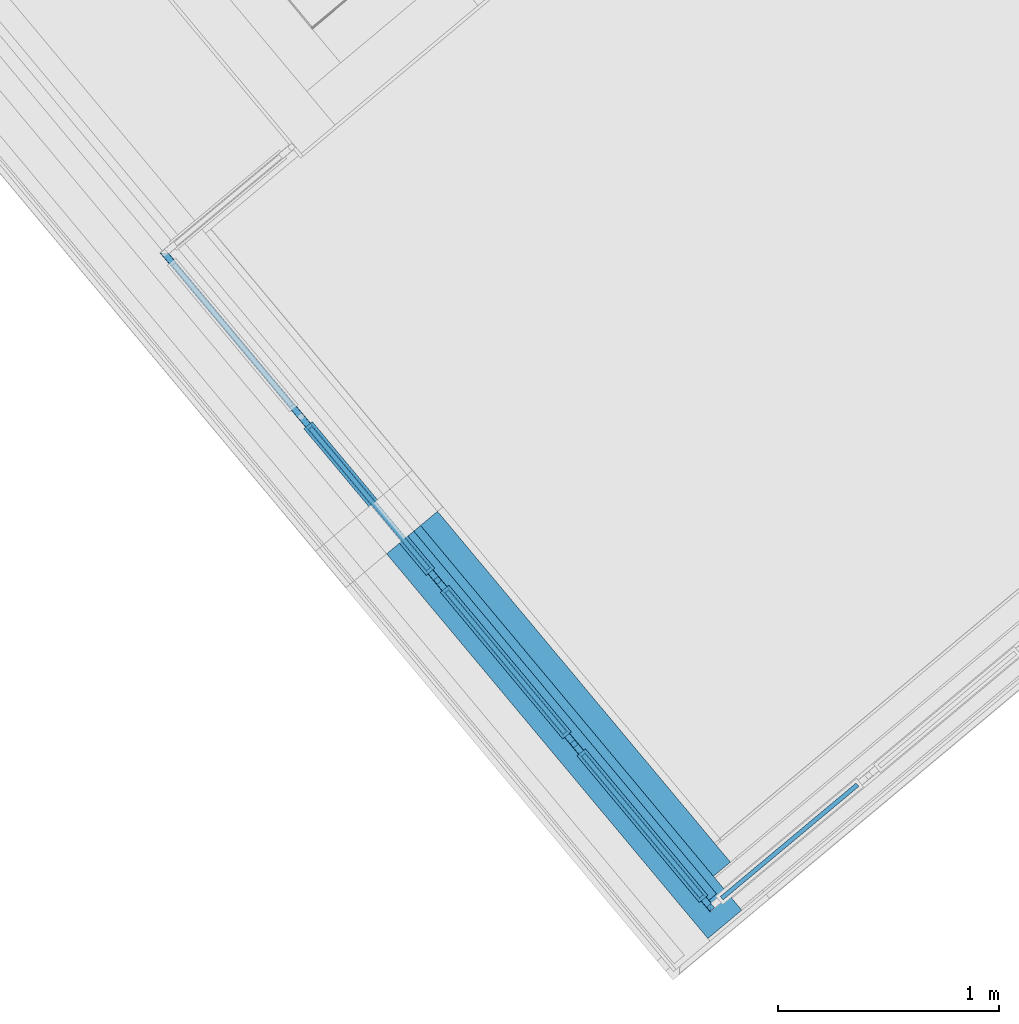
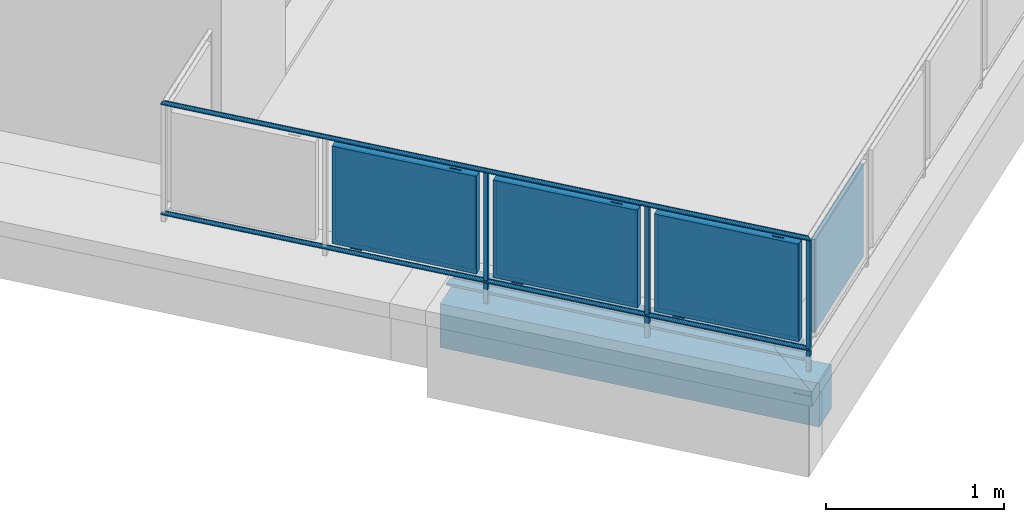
# One storey, part 15 of 58: 15 building element parts, 2 elements without a shape of their own.
"""IFC4 building model written with IfcOpenShell, lengths in metres."""

from ifc_helpers import new_model, entity, si_unit, converted_unit, derived_unit, direction, frame, origin_with_axes, place, context, subcontext, project, spatial, polygons, material, type_object, element, aggregate, save


model = new_model("IFC4")

# Units and contexts
model_context = context("Model", 3, precision=1e-05, world=origin_with_axes(), true_north=direction((0.0, 1.0)))
body_context = subcontext(model_context, "Body", "Model", "MODEL_VIEW")
ifc_project = project(units=[si_unit("LENGTHUNIT", "METRE"), si_unit("AREAUNIT", "SQUARE_METRE"), si_unit("VOLUMEUNIT", "CUBIC_METRE"), converted_unit("PLANEANGLEUNIT", "DEGREE", entity("IfcPlaneAngleMeasure", 0.0174532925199), si_unit("PLANEANGLEUNIT", "RADIAN"), dimensions=[0, 0, 0, 0, 0, 0, 0]), converted_unit("TIMEUNIT", "Year", entity("IfcTimeMeasure", 31556926.0), si_unit("TIMEUNIT", "SECOND"), dimensions=[0, 0, 1, 0, 0, 0, 0]), si_unit("MASSUNIT", "GRAM", prefix="KILO"), si_unit("THERMODYNAMICTEMPERATUREUNIT", "DEGREE_CELSIUS"), si_unit("LUMINOUSINTENSITYUNIT", "LUMEN"), si_unit("ENERGYUNIT", "JOULE", prefix="MEGA"), derived_unit("THERMALCONDUCTANCEUNIT", [(si_unit("POWERUNIT", "WATT"), 1), (si_unit("LENGTHUNIT", "METRE"), -1), (si_unit("THERMODYNAMICTEMPERATUREUNIT", "KELVIN"), -1)]), derived_unit("SPECIFICHEATCAPACITYUNIT", [(si_unit("ENERGYUNIT", "JOULE"), 1), (si_unit("MASSUNIT", "GRAM", prefix="KILO"), -1), (si_unit("THERMODYNAMICTEMPERATUREUNIT", "KELVIN"), -1)]), derived_unit("MASSDENSITYUNIT", [(si_unit("MASSUNIT", "GRAM", prefix="KILO"), 1), (si_unit("VOLUMEUNIT", "CUBIC_METRE"), -1)])], contexts=[model_context])

# Site, building, storey
site_placement = place(None, frame((-0.00153261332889, -0.00661245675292, 0.0), z_axis=(0.0, 0.0, 1.0), x_axis=(1.0, 0.0, 0.0)))
site = spatial("IfcSite", under=ifc_project, at=site_placement, Name="Site", CompositionType="ELEMENT")
building_placement = place(site_placement, origin_with_axes())
building = spatial("IfcBuilding", under=site, at=building_placement, Name="Building", CompositionType="ELEMENT")
storey_placement = place(building_placement, frame((0.0, 0.0, 5.7), z_axis=(0.0, 0.0, 1.0), x_axis=(1.0, 0.0, 0.0)))
storey = spatial("IfcBuildingStorey", under=building, at=storey_placement, Name="DG1", CompositionType="ELEMENT", Elevation=5.7)

# Wall, building element parts
wall_type = type_object("IfcWallType", Name="Balkon Dämmung runter 574 x 610", PredefinedType="NOTDEFINED")
wall_placement = place(storey_placement, frame((-0.869246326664, 8.34153645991, -0.2), z_axis=(0.0, 0.0, 1.0), x_axis=(0.640952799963, -0.767580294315, 0.0)))
wall = element("IfcWall", 1, at=wall_placement, inside=storey, type_object=wall_type, Name="Wand-004", PredefinedType="NOTDEFINED")
ifc_material_1 = material(Name="EPS 1")
building_element_part_1_placement = place(wall_placement, origin_with_axes())
building_element_part_1 = element("IfcBuildingElementPart", 2, at=building_element_part_1_placement, material=ifc_material_1, Name="EPS 1", PredefinedType="NOTDEFINED", context=body_context, shape_type="Tessellation", body=[
    polygons([(2.06886445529, 0.199999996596, 0.33500000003), (6.64236852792e-05, 0.199999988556, 0.335000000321), (9.9635535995e-05, 0.300000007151, 0.335000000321), (2.06881889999, 0.300000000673, 0.33500000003), (2.06886445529, 0.199999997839, 0.488695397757), (2.06886445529, 0.199999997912, 0.491006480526), (2.06886445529, 0.199999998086, 0.496604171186), (2.06886445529, 0.199999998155, 0.498822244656), (2.06886445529, 0.199999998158, 0.498915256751), (2.06886445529, 0.199999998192, 0.500000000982), (2.06886445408, 0.199999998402, 0.506731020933), (2.0688644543, 0.199999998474, 0.509050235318), (2.0688644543, 0.199999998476, 0.509099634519), (2.0688644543, 0.199999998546, 0.51136132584), (2.0688644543, 0.199999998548, 0.511410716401), (2.0688644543, 0.199999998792, 0.519224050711), (2.0688644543, 0.199999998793, 0.519273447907), (2.0688644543, 0.200000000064, 0.560000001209), (6.64236890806e-05, 0.2, 0.560000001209), (9.963553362e-05, 0.3, 0.560000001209), (9.9635535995e-05, 0.300000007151, 0.488695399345), (2.068818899, 0.299999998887, 0.560000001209), (2.068818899, 0.299999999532, 0.519273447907), (2.068818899, 0.299999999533, 0.519224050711), (2.068818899, 0.299999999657, 0.511410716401), (2.068818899, 0.299999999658, 0.51136132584), (2.068818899, 0.299999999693, 0.509099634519), (2.068818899, 0.299999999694, 0.509050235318), (2.06881889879, 0.299999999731, 0.506731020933), (2.06881889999, 0.299999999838, 0.500000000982), (2.06881889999, 0.299999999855, 0.498915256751), (2.06881889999, 0.299999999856, 0.498822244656), (2.06881889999, 0.299999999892, 0.496604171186), (2.06881889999, 0.29999999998, 0.491006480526), (2.06881889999, 0.300000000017, 0.488695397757)], [[[1, 2, 3, 4]], [[1, 5, 6, 7, 8, 9, 10, 11, 12, 13, 14, 15, 16, 17, 18, 19, 2]], [[2, 19, 20, 21, 3]], [[3, 21, 20, 22, 23, 24, 25, 26, 27, 28, 29, 30, 31, 32, 33, 34, 35, 4]], [[5, 1, 4, 35]], [[6, 5, 35, 34]], [[7, 6, 34, 33]], [[8, 7, 33, 32]], [[9, 8, 32, 31]], [[10, 9, 31, 30]], [[11, 10, 30, 29]], [[12, 11, 29, 28]], [[13, 12, 28, 27]], [[14, 13, 27, 26]], [[15, 14, 26, 25]], [[16, 15, 25, 24]], [[17, 16, 24, 23]], [[18, 17, 23, 22]], [[19, 18, 22, 20]]], closed=True),
])
ifc_material_2 = material(Name="Vollholz")
building_element_part_2_placement = place(wall_placement, origin_with_axes())
building_element_part_2 = element("IfcBuildingElementPart", 3, at=building_element_part_2_placement, material=ifc_material_2, Name="Vollholz", PredefinedType="NOTDEFINED", context=body_context, shape_type="Tessellation", body=[
    polygons([(3.32118445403e-05, 0.1, 0.560000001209), (2.13905292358, 0.1, 0.560000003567), (2.13905292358, 0.1, 0.567947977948), (2.13905292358, 0.1, 0.573880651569), (2.13905292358, 0.1, 0.575576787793), (2.13905292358, 0.1, 0.575979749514), (3.32118445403e-05, 0.1, 0.575979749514), (5.3138951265e-05, 0.16, 0.560000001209), (2.1390255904, 0.160000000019, 0.560000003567), (2.13902556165, 0.160063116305, 0.567947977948), (2.13902554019, 0.160110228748, 0.573880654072), (2.13904766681, 0.11153931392, 0.575576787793), (5.31755602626e-05, 0.160110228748, 0.573880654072)], [[[1, 2, 3, 4, 5, 6, 7]], [[2, 1, 8, 9]], [[3, 2, 9, 10]], [[4, 3, 10, 11]], [[5, 4, 11, 12]], [[12, 6, 5]], [[7, 6, 12, 11, 13]], [[8, 1, 7, 13]], [[8, 13, 11, 10, 9]]], closed=True),
])
ifc_material_3 = material(Name="Stahlbeton")
building_element_part_3_placement = place(wall_placement, origin_with_axes())
building_element_part_3 = element("IfcBuildingElementPart", 4, at=building_element_part_3_placement, material=ifc_material_3, Name="Stahlbeton", PredefinedType="NOTDEFINED", context=body_context, shape_type="Tessellation", body=[
    polygons([(2.26895554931, -2.73519074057e-09, 0.500000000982), (2.26886443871, 0.199999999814, 0.500000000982), (6.64236890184e-05, 0.199999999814, 0.500000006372), (0.0, -2.73519074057e-09, 0.499999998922), (2.26886443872, 0.199999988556, 0.498915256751), (2.26895554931, -2.73519074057e-09, 0.498915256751), (2.26886443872, 0.199999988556, 0.498822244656), (2.26886443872, 0.199999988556, 0.496604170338), (2.26886443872, 0.199999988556, 0.491006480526), (2.26886443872, 0.199999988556, 0.488695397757), (2.26886443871, 0.19999999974, 0.334999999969), (6.64236852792e-05, 0.199999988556, 0.335000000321), (0.0, -2.73518985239e-09, 0.2), (6.64236891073e-05, 0.200000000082, 0.2), (2.26895554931, -2.73519074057e-09, 0.2), (2.26895554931, -2.73519074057e-09, 0.334999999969), (2.26895554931, -2.73519074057e-09, 0.488695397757), (2.26895554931, -2.73519074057e-09, 0.491006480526), (2.26895554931, -2.73519074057e-09, 0.496604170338), (2.26895554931, -2.73519074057e-09, 0.498822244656), (2.26886443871, 0.199999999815, 0.2)], [[[1, 2, 3, 4]], [[5, 2, 1, 6]], [[2, 5, 7, 8, 9, 10, 11, 12, 3]], [[13, 4, 3, 12, 14]], [[6, 1, 4, 13, 15, 16, 17, 18, 19, 20]], [[5, 6, 20, 7]], [[7, 20, 19, 8]], [[8, 19, 18, 9]], [[9, 18, 17, 10]], [[10, 17, 16, 11]], [[11, 21, 14, 12]], [[21, 15, 13, 14]], [[11, 16, 15, 21]]], closed=True),
])
aggregate(wall, [building_element_part_1, building_element_part_2, building_element_part_3])

# Railing, building element parts
railing_type = type_object("IfcRailingType", Name="Geländerart", PredefinedType="NOTDEFINED")
railing_placement = place(storey_placement, frame((-1.26757951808, 10.1438545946, 0.38), z_axis=(0.0, 0.0, 1.0), x_axis=(1.0, 0.0, 0.0)))
railing = element("IfcRailing", 5, at=railing_placement, inside=storey, type_object=railing_type, Name="Geländer - 001", PredefinedType="NOTDEFINED")
ifc_material_4 = material(Name="Aluminium")
building_element_part_4_placement = place(railing_placement, origin_with_axes())
building_element_part_4 = element("IfcBuildingElementPart", 6, at=building_element_part_4_placement, material=ifc_material_4, Name="Aluminium", PredefinedType="NOTDEFINED", context=body_context, shape_type="Tessellation", body=[
    polygons([(1.8636712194, -3.42062701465, -0.3), (1.88286164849, -3.40460429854, -0.3), (1.88286164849, -3.40460429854, 0.82), (1.8636712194, -3.42062701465, 0.82), (1.84764850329, -3.40143658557, -0.3), (1.86683893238, -3.38541386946, -0.3), (1.86683893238, -3.38541386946, 0.82), (1.84764850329, -3.40143658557, 0.82)], [[[1, 2, 3, 4]], [[1, 5, 6, 2]], [[2, 6, 7, 3]], [[4, 3, 7, 8]], [[5, 1, 4, 8]], [[6, 5, 8, 7]]], closed=True),
])
building_element_part_5_placement = place(railing_placement, origin_with_axes())
building_element_part_5 = element("IfcBuildingElementPart", 7, at=building_element_part_5_placement, material=ifc_material_4, Name="Aluminium", PredefinedType="NOTDEFINED", context=body_context, shape_type="Tessellation", body=[
    polygons([(-0.586034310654, -0.443703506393, 0.825), (-0.586355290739, -0.443674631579, 0.827604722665), (1.86712331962, -3.38220933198, 0.827604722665), (1.86715214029, -3.38188828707, 0.825), (-0.586355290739, -0.443674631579, 0.822395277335), (-0.587308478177, -0.443588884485, 0.81986969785), (-0.588864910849, -0.443448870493, 0.8175), (-0.590977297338, -0.443258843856, 0.815358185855), (-0.593581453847, -0.443024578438, 0.813509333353), (-0.5965982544, -0.442753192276, 0.812009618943), (-0.599936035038, -0.4424529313, 0.810904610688), (-0.603493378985, -0.442132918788, 0.810227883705), (-0.607162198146, -0.441802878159, 0.81), (-0.610831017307, -0.441472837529, 0.810227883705), (-0.614388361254, -0.441152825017, 0.810904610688), (-0.617726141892, -0.440852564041, 0.812009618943), (-0.620742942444, -0.440581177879, 0.813509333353), (-0.623347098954, -0.440346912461, 0.815358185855), (-0.625459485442, -0.440156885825, 0.8175), (-0.627015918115, -0.440016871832, 0.81986969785), (-0.627969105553, -0.439931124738, 0.822395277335), (-0.628290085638, -0.439902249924, 0.825), (-0.627969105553, -0.439931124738, 0.827604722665), (-0.627015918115, -0.440016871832, 0.83013030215), (-0.625459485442, -0.440156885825, 0.8325), (-0.623347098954, -0.440346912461, 0.834641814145), (-0.620742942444, -0.440581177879, 0.836490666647), (-0.617726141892, -0.440852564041, 0.837990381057), (-0.614388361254, -0.441152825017, 0.839095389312), (-0.610831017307, -0.441472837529, 0.839772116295), (-0.607162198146, -0.441802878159, 0.84), (-0.603493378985, -0.442132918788, 0.839772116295), (-0.599936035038, -0.4424529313, 0.839095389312), (-0.5965982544, -0.442753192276, 0.837990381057), (-0.593581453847, -0.443024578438, 0.836490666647), (-0.590977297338, -0.443258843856, 0.834641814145), (-0.588864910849, -0.443448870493, 0.8325), (-0.587308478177, -0.443588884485, 0.83013030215), (1.86703773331, -3.38316271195, 0.83013030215), (1.86689798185, -3.384719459, 0.8325), (1.86670831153, -3.38683227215, 0.834641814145), (1.86647448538, -3.38943695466, 0.836490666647), (1.86620360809, -3.39245436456, 0.837990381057), (1.86590391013, -3.39579281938, 0.839095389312), (1.86558449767, -3.39935088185, 0.839772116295), (1.86525507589, -3.40302044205, 0.84), (1.86492565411, -3.40669000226, 0.839772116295), (1.86460624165, -3.41024806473, 0.839095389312), (1.86430654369, -3.41358651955, 0.837990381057), (1.8640356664, -3.41660392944, 0.836490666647), (1.86380184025, -3.41920861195, 0.834641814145), (1.86361216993, -3.42132142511, 0.8325), (1.86347241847, -3.42287817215, 0.83013030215), (1.86338683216, -3.42383155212, 0.827604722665), (1.86335801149, -3.42415259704, 0.825), (1.86338683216, -3.42383155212, 0.822395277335), (1.86347241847, -3.42287817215, 0.81986969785), (1.86361216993, -3.42132142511, 0.8175), (1.86380184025, -3.41920861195, 0.815358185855), (1.8640356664, -3.41660392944, 0.813509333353), (1.86430654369, -3.41358651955, 0.812009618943), (1.86460624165, -3.41024806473, 0.810904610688), (1.86492565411, -3.40669000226, 0.810227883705), (1.86525507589, -3.40302044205, 0.81), (1.86558449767, -3.39935088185, 0.810227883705), (1.86590391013, -3.39579281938, 0.810904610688), (1.86620360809, -3.39245436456, 0.812009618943), (1.86647448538, -3.38943695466, 0.813509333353), (1.86670831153, -3.38683227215, 0.815358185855), (1.86689798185, -3.384719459, 0.8175), (1.86703773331, -3.38316271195, 0.81986969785), (1.86712331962, -3.38220933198, 0.822395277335)], [[[1, 2, 3, 4]], [[1, 5, 6, 7, 8, 9, 10, 11, 12, 13, 14, 15, 16, 17, 18, 19, 20, 21, 22, 23, 24, 25, 26, 27, 28, 29, 30, 31, 32, 33, 34, 35, 36, 37, 38, 2]], [[2, 38, 39, 3]], [[4, 3, 39, 40, 41, 42, 43, 44, 45, 46, 47, 48, 49, 50, 51, 52, 53, 54, 55, 56, 57, 58, 59, 60, 61, 62, 63, 64, 65, 66, 67, 68, 69, 70, 71, 72]], [[5, 1, 4, 72]], [[6, 5, 72, 71]], [[7, 6, 71, 70]], [[8, 7, 70, 69]], [[9, 8, 69, 68]], [[10, 9, 68, 67]], [[11, 10, 67, 66]], [[12, 11, 66, 65]], [[13, 12, 65, 64]], [[14, 13, 64, 63]], [[15, 14, 63, 62]], [[16, 15, 62, 61]], [[17, 16, 61, 60]], [[18, 17, 60, 59]], [[19, 18, 59, 58]], [[20, 19, 58, 57]], [[21, 20, 57, 56]], [[22, 21, 56, 55]], [[23, 22, 55, 54]], [[24, 23, 54, 53]], [[25, 24, 53, 52]], [[26, 25, 52, 51]], [[27, 26, 51, 50]], [[28, 27, 50, 49]], [[29, 28, 49, 48]], [[30, 29, 48, 47]], [[31, 30, 47, 46]], [[32, 31, 46, 45]], [[33, 32, 45, 44]], [[34, 33, 44, 43]], [[35, 34, 43, 42]], [[36, 35, 42, 41]], [[37, 36, 41, 40]], [[38, 37, 40, 39]]], closed=True),
])
building_element_part_6_placement = place(railing_placement, origin_with_axes())
building_element_part_6 = element("IfcBuildingElementPart", 8, at=building_element_part_6_placement, material=ifc_material_4, Name="Aluminium", PredefinedType="NOTDEFINED", context=body_context, shape_type="Tessellation", body=[
    polygons([(-0.586034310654, -0.443703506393, 0.07), (-0.586355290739, -0.443674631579, 0.072604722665), (1.86712331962, -3.38220933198, 0.072604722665), (1.86715214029, -3.38188828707, 0.07), (-0.586355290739, -0.443674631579, 0.067395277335), (-0.587308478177, -0.443588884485, 0.0648696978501), (-0.588864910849, -0.443448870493, 0.0625), (-0.590977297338, -0.443258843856, 0.0603581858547), (-0.593581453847, -0.443024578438, 0.0585093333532), (-0.5965982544, -0.442753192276, 0.0570096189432), (-0.599936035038, -0.4424529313, 0.0559046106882), (-0.603493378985, -0.442132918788, 0.0552278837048), (-0.607162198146, -0.441802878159, 0.055), (-0.610831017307, -0.441472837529, 0.0552278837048), (-0.614388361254, -0.441152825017, 0.0559046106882), (-0.617726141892, -0.440852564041, 0.0570096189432), (-0.620742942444, -0.440581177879, 0.0585093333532), (-0.623347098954, -0.440346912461, 0.0603581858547), (-0.625459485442, -0.440156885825, 0.0625), (-0.627015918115, -0.440016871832, 0.0648696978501), (-0.627969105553, -0.439931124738, 0.067395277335), (-0.628290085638, -0.439902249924, 0.07), (-0.627969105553, -0.439931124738, 0.072604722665), (-0.627015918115, -0.440016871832, 0.0751303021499), (-0.625459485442, -0.440156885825, 0.0775), (-0.623347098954, -0.440346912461, 0.0796418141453), (-0.620742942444, -0.440581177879, 0.0814906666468), (-0.617726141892, -0.440852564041, 0.0829903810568), (-0.614388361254, -0.441152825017, 0.0840953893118), (-0.610831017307, -0.441472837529, 0.0847721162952), (-0.607162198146, -0.441802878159, 0.085), (-0.603493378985, -0.442132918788, 0.0847721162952), (-0.599936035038, -0.4424529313, 0.0840953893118), (-0.5965982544, -0.442753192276, 0.0829903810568), (-0.593581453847, -0.443024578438, 0.0814906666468), (-0.590977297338, -0.443258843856, 0.0796418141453), (-0.588864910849, -0.443448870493, 0.0775), (-0.587308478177, -0.443588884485, 0.0751303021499), (1.86703773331, -3.38316271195, 0.0751303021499), (1.86689798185, -3.384719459, 0.0775), (1.86670831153, -3.38683227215, 0.0796418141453), (1.86647448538, -3.38943695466, 0.0814906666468), (1.86620360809, -3.39245436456, 0.0829903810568), (1.86590391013, -3.39579281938, 0.0840953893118), (1.86558449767, -3.39935088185, 0.0847721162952), (1.86525507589, -3.40302044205, 0.085), (1.86492565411, -3.40669000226, 0.0847721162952), (1.86460624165, -3.41024806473, 0.0840953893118), (1.86430654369, -3.41358651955, 0.0829903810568), (1.8640356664, -3.41660392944, 0.0814906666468), (1.86380184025, -3.41920861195, 0.0796418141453), (1.86361216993, -3.42132142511, 0.0775), (1.86347241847, -3.42287817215, 0.0751303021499), (1.86338683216, -3.42383155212, 0.072604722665), (1.86335801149, -3.42415259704, 0.07), (1.86338683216, -3.42383155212, 0.067395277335), (1.86347241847, -3.42287817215, 0.0648696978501), (1.86361216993, -3.42132142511, 0.0625), (1.86380184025, -3.41920861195, 0.0603581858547), (1.8640356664, -3.41660392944, 0.0585093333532), (1.86430654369, -3.41358651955, 0.0570096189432), (1.86460624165, -3.41024806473, 0.0559046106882), (1.86492565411, -3.40669000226, 0.0552278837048), (1.86525507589, -3.40302044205, 0.055), (1.86558449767, -3.39935088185, 0.0552278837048), (1.86590391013, -3.39579281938, 0.0559046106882), (1.86620360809, -3.39245436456, 0.0570096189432), (1.86647448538, -3.38943695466, 0.0585093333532), (1.86670831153, -3.38683227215, 0.0603581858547), (1.86689798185, -3.384719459, 0.0625), (1.86703773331, -3.38316271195, 0.0648696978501), (1.86712331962, -3.38220933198, 0.067395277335)], [[[1, 2, 3, 4]], [[1, 5, 6, 7, 8, 9, 10, 11, 12, 13, 14, 15, 16, 17, 18, 19, 20, 21, 22, 23, 24, 25, 26, 27, 28, 29, 30, 31, 32, 33, 34, 35, 36, 37, 38, 2]], [[2, 38, 39, 3]], [[4, 3, 39, 40, 41, 42, 43, 44, 45, 46, 47, 48, 49, 50, 51, 52, 53, 54, 55, 56, 57, 58, 59, 60, 61, 62, 63, 64, 65, 66, 67, 68, 69, 70, 71, 72]], [[5, 1, 4, 72]], [[6, 5, 72, 71]], [[7, 6, 71, 70]], [[8, 7, 70, 69]], [[9, 8, 69, 68]], [[10, 9, 68, 67]], [[11, 10, 67, 66]], [[12, 11, 66, 65]], [[13, 12, 65, 64]], [[14, 13, 64, 63]], [[15, 14, 63, 62]], [[16, 15, 62, 61]], [[17, 16, 61, 60]], [[18, 17, 60, 59]], [[19, 18, 59, 58]], [[20, 19, 58, 57]], [[21, 20, 57, 56]], [[22, 21, 56, 55]], [[23, 22, 55, 54]], [[24, 23, 54, 53]], [[25, 24, 53, 52]], [[26, 25, 52, 51]], [[27, 26, 51, 50]], [[28, 27, 50, 49]], [[29, 28, 49, 48]], [[30, 29, 48, 47]], [[31, 30, 47, 46]], [[32, 31, 46, 45]], [[33, 32, 45, 44]], [[34, 33, 44, 43]], [[35, 34, 43, 42]], [[36, 35, 42, 41]], [[37, 36, 41, 40]], [[38, 37, 40, 39]]], closed=True),
])
ifc_material_5 = material(Name="Profilit")
building_element_part_7_placement = place(railing_placement, origin_with_axes())
building_element_part_7 = element("IfcBuildingElementPart", 9, at=building_element_part_7_placement, material=ifc_material_5, Name="Profilit", PredefinedType="NOTDEFINED", context=body_context, shape_type="Tessellation", body=[
    polygons([(0.595063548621, -1.86610745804, 0.135), (0.0602773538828, -1.22559329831, 0.135), (0.0602773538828, -1.22559329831, 0.775), (0.595063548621, -1.86610745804, 0.775), (0.0449250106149, -1.2384114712, 0.135), (0.579711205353, -1.87892563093, 0.135), (0.0449250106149, -1.2384114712, 0.775), (0.579711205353, -1.87892563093, 0.775)], [[[1, 2, 3, 4]], [[5, 2, 1, 6]], [[7, 3, 2, 5]], [[4, 3, 7, 8]], [[1, 4, 8, 6]], [[7, 5, 6, 8]]], closed=True),
])
building_element_part_8_placement = place(railing_placement, origin_with_axes())
building_element_part_8 = element("IfcBuildingElementPart", 10, at=building_element_part_8_placement, material=ifc_material_4, Name="Aluminium", PredefinedType="NOTDEFINED", context=body_context, shape_type="Tessellation", body=[
    polygons([(0.108997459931, -1.29564757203, 0.12), (0.153861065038, -1.34938077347, 0.12), (0.153861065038, -1.34938077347, 0.095), (0.108997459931, -1.29564757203, 0.095), (0.105159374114, -1.29885211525, 0.12), (0.150022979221, -1.35258531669, 0.12), (0.150022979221, -1.35258531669, 0.095), (0.105159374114, -1.29885211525, 0.095)], [[[1, 2, 3, 4]], [[5, 6, 2, 1]], [[2, 6, 7, 3]], [[4, 3, 7, 8]], [[1, 4, 8, 5]], [[8, 7, 6, 5]]], closed=True),
    polygons([(0.534829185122, -1.80566681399, 0.79), (0.489965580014, -1.75193361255, 0.79), (0.489965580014, -1.75193361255, 0.795), (0.534829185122, -1.80566681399, 0.795), (0.530991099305, -1.80887135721, 0.79), (0.486127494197, -1.75513815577, 0.79), (0.486127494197, -1.75513815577, 0.795), (0.530991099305, -1.80887135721, 0.795)], [[[1, 2, 3, 4]], [[5, 6, 2, 1]], [[2, 6, 7, 3]], [[4, 3, 7, 8]], [[1, 4, 8, 5]], [[8, 7, 6, 5]]], closed=True),
    polygons([(0.023797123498, -1.23651084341, 0.12), (0.0621779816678, -1.20446541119, 0.12), (0.616191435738, -1.86800808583, 0.12), (0.577810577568, -1.90005351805, 0.12), (0.0366152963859, -1.25186318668, 0.14), (0.0481295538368, -1.24224955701, 0.14), (0.0449250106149, -1.2384114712, 0.135), (0.0602773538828, -1.22559329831, 0.135), (0.0634818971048, -1.22943138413, 0.14), (0.0749961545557, -1.21981775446, 0.14), (0.60337326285, -1.85265574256, 0.14), (0.60337326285, -1.85265574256, 0.77), (0.0749961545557, -1.21981775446, 0.77), (0.0749961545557, -1.21981775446, 0.14), (0.0621779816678, -1.20446541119, 0.12), (0.0621779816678, -1.20446541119, 0.79), (0.616191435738, -1.86800808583, 0.79), (0.577810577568, -1.90005351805, 0.79), (0.023797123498, -1.23651084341, 0.79), (0.023797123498, -1.23651084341, 0.12), (0.0366152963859, -1.25186318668, 0.14), (0.0366152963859, -1.25186318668, 0.77), (0.56499240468, -1.88470117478, 0.77), (0.56499240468, -1.88470117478, 0.14), (0.576506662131, -1.87508754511, 0.14), (0.576506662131, -1.87508754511, 0.77), (0.0481295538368, -1.24224955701, 0.77), (0.0481295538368, -1.24224955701, 0.14), (0.0449250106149, -1.2384114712, 0.135), (0.0449250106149, -1.2384114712, 0.775), (0.579711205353, -1.87892563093, 0.775), (0.579711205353, -1.87892563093, 0.135), (0.595063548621, -1.86610745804, 0.135), (0.595063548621, -1.86610745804, 0.775), (0.0602773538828, -1.22559329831, 0.775), (0.0602773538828, -1.22559329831, 0.135), (0.0634818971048, -1.22943138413, 0.14), (0.0634818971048, -1.22943138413, 0.77), (0.591859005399, -1.86226937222, 0.77), (0.591859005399, -1.86226937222, 0.14)], [[[1, 2, 3, 4]], [[1, 5, 6, 7, 8, 9, 10, 2]], [[2, 10, 11, 12, 13, 14, 15, 16, 17, 3]], [[4, 3, 17, 18]], [[5, 1, 4, 18, 19, 20, 21, 22, 23, 24]], [[6, 5, 24, 25]], [[7, 6, 25, 26, 27, 28, 29, 30, 31, 32]], [[8, 7, 32, 33]], [[9, 8, 33, 34, 35, 36, 37, 38, 39, 40]], [[10, 9, 40, 11]], [[11, 40, 39, 12]], [[12, 39, 38, 13]], [[13, 38, 37, 14]], [[20, 15, 14, 37, 36, 29, 28, 21]], [[19, 16, 15, 20]], [[18, 17, 16, 19]], [[27, 22, 21, 28]], [[26, 23, 22, 27]], [[25, 24, 23, 26]], [[35, 30, 29, 36]], [[34, 31, 30, 35]], [[33, 32, 31, 34]]], closed=True),
])
building_element_part_9_placement = place(railing_placement, origin_with_axes())
building_element_part_9 = element("IfcBuildingElementPart", 11, at=building_element_part_9_placement, material=ifc_material_4, Name="Aluminium", PredefinedType="NOTDEFINED", context=body_context, shape_type="Tessellation", body=[
    polygons([(0.627462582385, -1.9400182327, -0.3), (0.64665301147, -1.92399551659, -0.3), (0.64665301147, -1.92399551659, 0.82), (0.627462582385, -1.9400182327, 0.82), (0.611439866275, -1.92082780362, -0.3), (0.63063029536, -1.90480508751, -0.3), (0.63063029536, -1.90480508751, 0.82), (0.611439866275, -1.92082780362, 0.82)], [[[1, 2, 3, 4]], [[1, 5, 6, 2]], [[2, 6, 7, 3]], [[4, 3, 7, 8]], [[5, 1, 4, 8]], [[6, 5, 8, 7]]], closed=True),
])
building_element_part_10_placement = place(railing_placement, origin_with_axes())
building_element_part_10 = element("IfcBuildingElementPart", 12, at=building_element_part_10_placement, material=ifc_material_5, Name="Profilit", PredefinedType="NOTDEFINED", context=body_context, shape_type="Tessellation", body=[
    polygons([(1.21316786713, -2.60641184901, 0.135), (0.678381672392, -1.96589768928, 0.135), (0.678381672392, -1.96589768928, 0.775), (1.21316786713, -2.60641184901, 0.775), (0.663029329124, -1.97871586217, 0.135), (1.19781552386, -2.6192300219, 0.135), (0.663029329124, -1.97871586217, 0.775), (1.19781552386, -2.6192300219, 0.775)], [[[1, 2, 3, 4]], [[5, 2, 1, 6]], [[7, 3, 2, 5]], [[4, 3, 7, 8]], [[1, 4, 8, 6]], [[7, 5, 6, 8]]], closed=True),
])
building_element_part_11_placement = place(railing_placement, origin_with_axes())
building_element_part_11 = element("IfcBuildingElementPart", 13, at=building_element_part_11_placement, material=ifc_material_4, Name="Aluminium", PredefinedType="NOTDEFINED", context=body_context, shape_type="Tessellation", body=[
    polygons([(0.72710177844, -2.035951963, 0.12), (0.771965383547, -2.08968516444, 0.12), (0.771965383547, -2.08968516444, 0.095), (0.72710177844, -2.035951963, 0.095), (0.723263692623, -2.03915650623, 0.12), (0.76812729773, -2.09288970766, 0.12), (0.76812729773, -2.09288970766, 0.095), (0.723263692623, -2.03915650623, 0.095)], [[[1, 2, 3, 4]], [[5, 6, 2, 1]], [[2, 6, 7, 3]], [[4, 3, 7, 8]], [[1, 4, 8, 5]], [[8, 7, 6, 5]]], closed=True),
    polygons([(1.15293350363, -2.54597120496, 0.79), (1.10806989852, -2.49223800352, 0.79), (1.10806989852, -2.49223800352, 0.795), (1.15293350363, -2.54597120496, 0.795), (1.14909541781, -2.54917574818, 0.79), (1.10423181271, -2.49544254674, 0.79), (1.10423181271, -2.49544254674, 0.795), (1.14909541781, -2.54917574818, 0.795)], [[[1, 2, 3, 4]], [[5, 6, 2, 1]], [[2, 6, 7, 3]], [[4, 3, 7, 8]], [[1, 4, 8, 5]], [[8, 7, 6, 5]]], closed=True),
    polygons([(0.641901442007, -1.97681523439, 0.12), (0.680282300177, -1.94476980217, 0.12), (1.23429575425, -2.6083124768, 0.12), (1.19591489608, -2.64035790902, 0.12), (0.654719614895, -1.99216757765, 0.14), (0.666233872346, -1.98255394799, 0.14), (0.663029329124, -1.97871586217, 0.135), (0.678381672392, -1.96589768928, 0.135), (0.681586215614, -1.9697357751, 0.14), (0.693100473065, -1.96012214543, 0.14), (1.22147758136, -2.59296013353, 0.14), (1.22147758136, -2.59296013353, 0.77), (0.693100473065, -1.96012214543, 0.77), (0.693100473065, -1.96012214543, 0.14), (0.680282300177, -1.94476980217, 0.12), (0.680282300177, -1.94476980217, 0.79), (1.23429575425, -2.6083124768, 0.79), (1.19591489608, -2.64035790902, 0.79), (0.641901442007, -1.97681523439, 0.79), (0.641901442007, -1.97681523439, 0.12), (0.654719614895, -1.99216757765, 0.14), (0.654719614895, -1.99216757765, 0.77), (1.18309672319, -2.62500556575, 0.77), (1.18309672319, -2.62500556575, 0.14), (1.19461098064, -2.61539193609, 0.14), (1.19461098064, -2.61539193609, 0.77), (0.666233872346, -1.98255394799, 0.77), (0.666233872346, -1.98255394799, 0.14), (0.663029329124, -1.97871586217, 0.135), (0.663029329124, -1.97871586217, 0.775), (1.19781552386, -2.6192300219, 0.775), (1.19781552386, -2.6192300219, 0.135), (1.21316786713, -2.60641184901, 0.135), (1.21316786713, -2.60641184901, 0.775), (0.678381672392, -1.96589768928, 0.775), (0.678381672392, -1.96589768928, 0.135), (0.681586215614, -1.9697357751, 0.14), (0.681586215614, -1.9697357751, 0.77), (1.20996332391, -2.6025737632, 0.77), (1.20996332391, -2.6025737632, 0.14)], [[[1, 2, 3, 4]], [[1, 5, 6, 7, 8, 9, 10, 2]], [[2, 10, 11, 12, 13, 14, 15, 16, 17, 3]], [[4, 3, 17, 18]], [[5, 1, 4, 18, 19, 20, 21, 22, 23, 24]], [[6, 5, 24, 25]], [[7, 6, 25, 26, 27, 28, 29, 30, 31, 32]], [[8, 7, 32, 33]], [[9, 8, 33, 34, 35, 36, 37, 38, 39, 40]], [[10, 9, 40, 11]], [[11, 40, 39, 12]], [[12, 39, 38, 13]], [[13, 38, 37, 14]], [[20, 15, 14, 37, 36, 29, 28, 21]], [[19, 16, 15, 20]], [[18, 17, 16, 19]], [[27, 22, 21, 28]], [[26, 23, 22, 27]], [[25, 24, 23, 26]], [[35, 30, 29, 36]], [[34, 31, 30, 35]], [[33, 32, 31, 34]]], closed=True),
])
building_element_part_12_placement = place(railing_placement, origin_with_axes())
building_element_part_12 = element("IfcBuildingElementPart", 14, at=building_element_part_12_placement, material=ifc_material_4, Name="Aluminium", PredefinedType="NOTDEFINED", context=body_context, shape_type="Tessellation", body=[
    polygons([(1.24556690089, -2.68032262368, -0.3), (1.26475732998, -2.66429990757, -0.3), (1.26475732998, -2.66429990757, 0.82), (1.24556690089, -2.68032262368, 0.82), (1.22954418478, -2.66113219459, -0.3), (1.24873461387, -2.64510947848, -0.3), (1.24873461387, -2.64510947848, 0.82), (1.22954418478, -2.66113219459, 0.82)], [[[1, 2, 3, 4]], [[1, 5, 6, 2]], [[2, 6, 7, 3]], [[4, 3, 7, 8]], [[5, 1, 4, 8]], [[6, 5, 8, 7]]], closed=True),
])
building_element_part_13_placement = place(railing_placement, origin_with_axes())
building_element_part_13 = element("IfcBuildingElementPart", 15, at=building_element_part_13_placement, material=ifc_material_5, Name="Profilit", PredefinedType="NOTDEFINED", context=body_context, shape_type="Tessellation", body=[
    polygons([(1.83127218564, -3.34671623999, 0.135), (1.2964859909, -2.70620208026, 0.135), (1.2964859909, -2.70620208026, 0.775), (1.83127218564, -3.34671623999, 0.775), (1.28113364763, -2.71902025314, 0.135), (1.81591984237, -3.35953441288, 0.135), (1.28113364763, -2.71902025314, 0.775), (1.81591984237, -3.35953441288, 0.775)], [[[1, 2, 3, 4]], [[5, 2, 1, 6]], [[7, 3, 2, 5]], [[4, 3, 7, 8]], [[1, 4, 8, 6]], [[7, 5, 6, 8]]], closed=True),
])
building_element_part_14_placement = place(railing_placement, origin_with_axes())
building_element_part_14 = element("IfcBuildingElementPart", 16, at=building_element_part_14_placement, material=ifc_material_4, Name="Aluminium", PredefinedType="NOTDEFINED", context=body_context, shape_type="Tessellation", body=[
    polygons([(1.34520609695, -2.77625635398, 0.12), (1.39006970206, -2.82998955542, 0.12), (1.39006970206, -2.82998955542, 0.095), (1.34520609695, -2.77625635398, 0.095), (1.34136801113, -2.7794608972, 0.12), (1.38623161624, -2.83319409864, 0.12), (1.38623161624, -2.83319409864, 0.095), (1.34136801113, -2.7794608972, 0.095)], [[[1, 2, 3, 4]], [[5, 6, 2, 1]], [[2, 6, 7, 3]], [[4, 3, 7, 8]], [[1, 4, 8, 5]], [[8, 7, 6, 5]]], closed=True),
    polygons([(1.77103782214, -3.28627559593, 0.79), (1.72617421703, -3.23254239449, 0.79), (1.72617421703, -3.23254239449, 0.795), (1.77103782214, -3.28627559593, 0.795), (1.76719973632, -3.28948013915, 0.79), (1.72233613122, -3.23574693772, 0.79), (1.72233613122, -3.23574693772, 0.795), (1.76719973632, -3.28948013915, 0.795)], [[[1, 2, 3, 4]], [[5, 6, 2, 1]], [[2, 6, 7, 3]], [[4, 3, 7, 8]], [[1, 4, 8, 5]], [[8, 7, 6, 5]]], closed=True),
    polygons([(1.26000576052, -2.71711962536, 0.12), (1.29838661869, -2.68507419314, 0.12), (1.85240007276, -3.34861686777, 0.12), (1.81401921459, -3.38066229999, 0.12), (1.2728239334, -2.73247196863, 0.14), (1.28433819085, -2.72285833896, 0.14), (1.28113364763, -2.71902025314, 0.135), (1.2964859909, -2.70620208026, 0.135), (1.29969053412, -2.71004016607, 0.14), (1.31120479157, -2.70042653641, 0.14), (1.83958189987, -3.33326452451, 0.14), (1.83958189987, -3.33326452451, 0.77), (1.31120479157, -2.70042653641, 0.77), (1.31120479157, -2.70042653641, 0.14), (1.29838661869, -2.68507419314, 0.12), (1.29838661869, -2.68507419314, 0.79), (1.85240007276, -3.34861686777, 0.79), (1.81401921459, -3.38066229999, 0.79), (1.26000576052, -2.71711962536, 0.79), (1.26000576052, -2.71711962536, 0.12), (1.2728239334, -2.73247196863, 0.14), (1.2728239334, -2.73247196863, 0.77), (1.8012010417, -3.36530995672, 0.77), (1.8012010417, -3.36530995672, 0.14), (1.81271529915, -3.35569632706, 0.14), (1.81271529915, -3.35569632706, 0.77), (1.28433819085, -2.72285833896, 0.77), (1.28433819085, -2.72285833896, 0.14), (1.28113364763, -2.71902025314, 0.135), (1.28113364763, -2.71902025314, 0.775), (1.81591984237, -3.35953441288, 0.775), (1.81591984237, -3.35953441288, 0.135), (1.83127218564, -3.34671623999, 0.135), (1.83127218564, -3.34671623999, 0.775), (1.2964859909, -2.70620208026, 0.775), (1.2964859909, -2.70620208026, 0.135), (1.29969053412, -2.71004016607, 0.14), (1.29969053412, -2.71004016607, 0.77), (1.82806764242, -3.34287815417, 0.77), (1.82806764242, -3.34287815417, 0.14)], [[[1, 2, 3, 4]], [[1, 5, 6, 7, 8, 9, 10, 2]], [[2, 10, 11, 12, 13, 14, 15, 16, 17, 3]], [[4, 3, 17, 18]], [[5, 1, 4, 18, 19, 20, 21, 22, 23, 24]], [[6, 5, 24, 25]], [[7, 6, 25, 26, 27, 28, 29, 30, 31, 32]], [[8, 7, 32, 33]], [[9, 8, 33, 34, 35, 36, 37, 38, 39, 40]], [[10, 9, 40, 11]], [[11, 40, 39, 12]], [[12, 39, 38, 13]], [[13, 38, 37, 14]], [[20, 15, 14, 37, 36, 29, 28, 21]], [[19, 16, 15, 20]], [[18, 17, 16, 19]], [[27, 22, 21, 28]], [[26, 23, 22, 27]], [[25, 24, 23, 26]], [[35, 30, 29, 36]], [[34, 31, 30, 35]], [[33, 32, 31, 34]]], closed=True),
])
building_element_part_15_placement = place(railing_placement, origin_with_axes())
building_element_part_15 = element("IfcBuildingElementPart", 17, at=building_element_part_15_placement, material=ifc_material_5, Name="Profilit", PredefinedType="NOTDEFINED", context=body_context, shape_type="Tessellation", body=[
    polygons([(2.52336612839, -2.84009662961, 0.135), (1.90872281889, -3.3536690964, 0.135), (1.90872281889, -3.3536690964, 0.775), (2.52336612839, -2.84009662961, 0.775), (1.92154668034, -3.36901668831, 0.135), (2.53618998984, -2.85544422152, 0.135), (1.92154668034, -3.36901668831, 0.775), (2.53618998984, -2.85544422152, 0.775)], [[[1, 2, 3, 4]], [[5, 2, 1, 6]], [[7, 3, 2, 5]], [[4, 3, 7, 8]], [[1, 4, 8, 6]], [[7, 5, 6, 8]]], closed=True),
])
aggregate(railing, [building_element_part_4, building_element_part_5, building_element_part_6, building_element_part_7, building_element_part_8, building_element_part_9, building_element_part_10, building_element_part_11, building_element_part_12, building_element_part_13, building_element_part_14, building_element_part_15])

save(model, "model.ifc")
